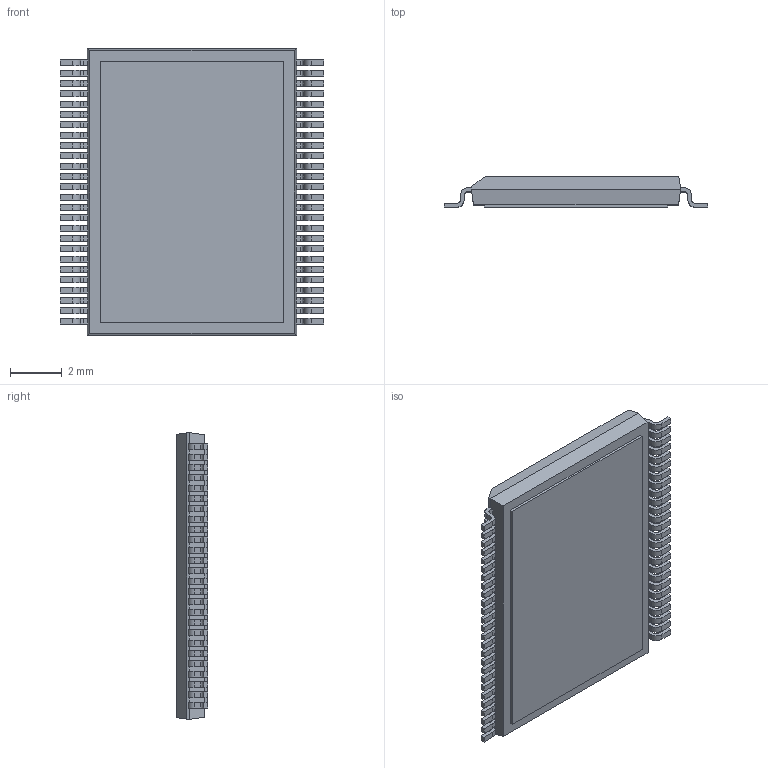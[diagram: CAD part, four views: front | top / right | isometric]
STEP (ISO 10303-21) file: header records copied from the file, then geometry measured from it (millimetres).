
FILE_DESCRIPTION (( 'STEP AP214' ), '1' );
FILE_NAME ('TSSOP40P1000X120-52TP_MO-153.JBT.STEP', '2014-10-29T08:21:44', ( 'Tester2' ), ( '' ), 'SwSTEP 2.0', 'SolidWorks 2012', '' );
FILE_SCHEMA (( 'AUTOMOTIVE_DESIGN' ));
Length unit declared in the file: millimetre
Products named in the file (1): TSSOP40P1000X120-52TP_MO-153.JBT
Bounding box: 10.2 x 1.2 x 11.1 mm (x, y, z)
Volume: 106 mm3; surface area: 275.3 mm2
Topology: 1 solids, 1 shells, 695 faces, 2069 edges, 1378 vertices
Faces by surface type: plane 485, cylinder 210
Entity records: 30789 total; most frequent: CARTESIAN_POINT 4143, ORIENTED_EDGE 4138, DIRECTION 3881, EDGE_CURVE 2069, VECTOR 1649, LINE 1649, VERTEX_POINT 1378, AXIS2_PLACEMENT_3D 1116
